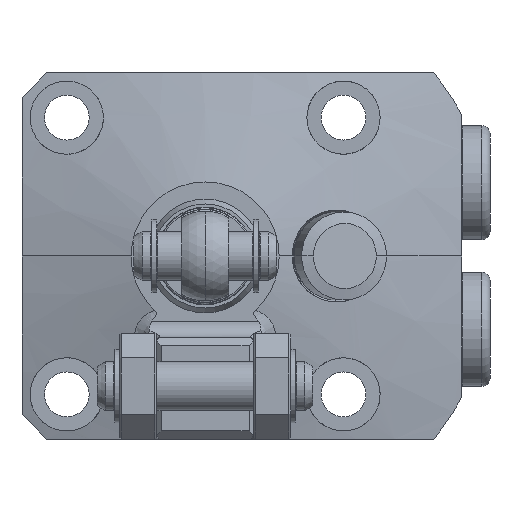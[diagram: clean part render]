
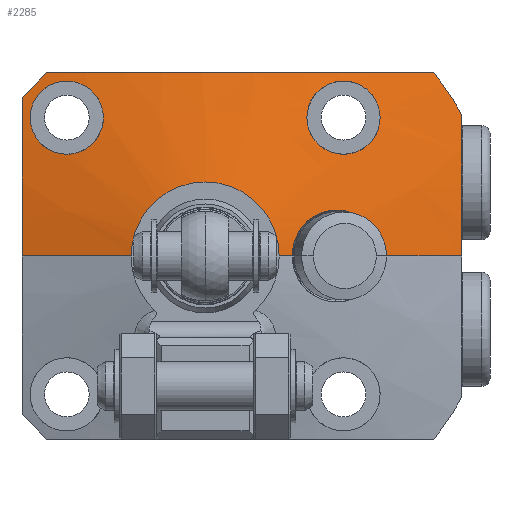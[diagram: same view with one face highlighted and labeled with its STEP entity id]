
A CAD part, left-side view. The second image highlights one B-rep face of the part: STEP entity #2285.
In plain terms, the highlighted conical face has half-angle 75 degrees and reference radius 36.259 mm.
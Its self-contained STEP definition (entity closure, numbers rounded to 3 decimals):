
#1564=B_SPLINE_CURVE_WITH_KNOTS('',3,(#12269,#12270,#12271,#12272,#12273,
#12274),.UNSPECIFIED.,.F.,.F.,(4,2,4),(0.,0.5,1.),.UNSPECIFIED.);
#1567=B_SPLINE_CURVE_WITH_KNOTS('',3,(#12395,#12396,#12397,#12398,#12399,
#12400,#12401,#12402,#12403,#12404),.UNSPECIFIED.,.F.,.F.,(4,2,2,2,4),(0.,
0.25,0.5,0.75,1.),.UNSPECIFIED.);
#1568=B_SPLINE_CURVE_WITH_KNOTS('',3,(#12413,#12414,#12415,#12416,#12417,
#12418,#12419,#12420,#12421,#12422),.UNSPECIFIED.,.F.,.F.,(4,2,2,2,4),(0.,
0.25,0.5,0.75,1.),.UNSPECIFIED.);
#1569=B_SPLINE_CURVE_WITH_KNOTS('',3,(#12546,#12547,#12548,#12549,#12550,
#12551,#12552,#12553,#12554,#12555),.UNSPECIFIED.,.F.,.F.,(4,2,2,2,4),(0.,
0.25,0.5,0.75,1.),.UNSPECIFIED.);
#1570=B_SPLINE_CURVE_WITH_KNOTS('',3,(#12556,#12557,#12558,#12559,#12560,
#12561,#12562,#12563,#12564,#12565),.UNSPECIFIED.,.F.,.F.,(4,2,2,2,4),(0.,
0.25,0.5,0.75,1.),.UNSPECIFIED.);
#1571=B_SPLINE_CURVE_WITH_KNOTS('',3,(#12571,#12572,#12573,#12574,#12575,
#12576),.UNSPECIFIED.,.F.,.F.,(4,2,4),(0.,0.5,1.),.UNSPECIFIED.);
#1572=B_SPLINE_CURVE_WITH_KNOTS('',3,(#12579,#12580,#12581,#12582),
 .UNSPECIFIED.,.F.,.F.,(4,4),(0.,1.),.UNSPECIFIED.);
#1573=B_SPLINE_CURVE_WITH_KNOTS('',3,(#12586,#12587,#12588,#12589,#12590,
#12591,#12592,#12593),.UNSPECIFIED.,.F.,.F.,(4,2,2,4),(0.,0.5,0.75,1.),
 .UNSPECIFIED.);
#1574=B_SPLINE_CURVE_WITH_KNOTS('',3,(#12595,#12596,#12597,#12598),
 .UNSPECIFIED.,.F.,.F.,(4,4),(0.,1.),.UNSPECIFIED.);
#1575=B_SPLINE_CURVE_WITH_KNOTS('',3,(#12600,#12601,#12602,#12603),
 .UNSPECIFIED.,.F.,.F.,(4,4),(0.,1.),.UNSPECIFIED.);
#1669=FACE_BOUND('',#3254,.T.);
#1670=FACE_BOUND('',#3255,.T.);
#1671=FACE_BOUND('',#3256,.T.);
#1775=CONICAL_SURFACE('',#8554,36.259,75.);
#2285=ADVANCED_FACE('',(#1669,#1670,#1671),#1775,.T.);
#3254=EDGE_LOOP('',(#5181,#5182));
#3255=EDGE_LOOP('',(#5183,#5184));
#3256=EDGE_LOOP('',(#5185,#5186,#5187,#5188,#5189,#5190,#5191,#5192,#5193,
#5194,#5195));
#3724=LINE('',#12569,#4063);
#3725=LINE('',#12577,#4064);
#3726=LINE('',#12605,#4065);
#4063=VECTOR('',#10321,1.);
#4064=VECTOR('',#10322,1.);
#4065=VECTOR('',#10325,1.);
#5181=ORIENTED_EDGE('',*,*,#7139,.T.);
#5182=ORIENTED_EDGE('',*,*,#7076,.T.);
#5183=ORIENTED_EDGE('',*,*,#7140,.T.);
#5184=ORIENTED_EDGE('',*,*,#7080,.T.);
#5185=ORIENTED_EDGE('',*,*,#7141,.T.);
#5186=ORIENTED_EDGE('',*,*,#7142,.T.);
#5187=ORIENTED_EDGE('',*,*,#7143,.F.);
#5188=ORIENTED_EDGE('',*,*,#7028,.F.);
#5189=ORIENTED_EDGE('',*,*,#7144,.T.);
#5190=ORIENTED_EDGE('',*,*,#7145,.T.);
#5191=ORIENTED_EDGE('',*,*,#7146,.T.);
#5192=ORIENTED_EDGE('',*,*,#7147,.T.);
#5193=ORIENTED_EDGE('',*,*,#7148,.T.);
#5194=ORIENTED_EDGE('',*,*,#7149,.F.);
#5195=ORIENTED_EDGE('',*,*,#7150,.F.);
#6290=VERTEX_POINT('',#12268);
#6291=VERTEX_POINT('',#12275);
#6332=VERTEX_POINT('',#12405);
#6333=VERTEX_POINT('',#12406);
#6336=VERTEX_POINT('',#12423);
#6337=VERTEX_POINT('',#12424);
#6386=VERTEX_POINT('',#12567);
#6387=VERTEX_POINT('',#12568);
#6388=VERTEX_POINT('',#12570);
#6389=VERTEX_POINT('',#12578);
#6390=VERTEX_POINT('',#12583);
#6391=VERTEX_POINT('',#12585);
#6392=VERTEX_POINT('',#12594);
#6393=VERTEX_POINT('',#12599);
#6394=VERTEX_POINT('',#12604);
#7028=EDGE_CURVE('',#6290,#6291,#1564,.T.);
#7076=EDGE_CURVE('',#6332,#6333,#1567,.T.);
#7080=EDGE_CURVE('',#6336,#6337,#1568,.T.);
#7139=EDGE_CURVE('',#6333,#6332,#1569,.T.);
#7140=EDGE_CURVE('',#6337,#6336,#1570,.T.);
#7141=EDGE_CURVE('',#6386,#6387,#7794,.T.);
#7142=EDGE_CURVE('',#6387,#6388,#3724,.T.);
#7143=EDGE_CURVE('',#6291,#6388,#1571,.T.);
#7144=EDGE_CURVE('',#6290,#6389,#3725,.T.);
#7145=EDGE_CURVE('',#6389,#6390,#1572,.T.);
#7146=EDGE_CURVE('',#6390,#6391,#7795,.T.);
#7147=EDGE_CURVE('',#6391,#6392,#1573,.T.);
#7148=EDGE_CURVE('',#6392,#6393,#1574,.T.);
#7149=EDGE_CURVE('',#6394,#6393,#1575,.T.);
#7150=EDGE_CURVE('',#6386,#6394,#3726,.T.);
#7794=CIRCLE('',#8552,9.098);
#7795=CIRCLE('',#8553,36.);
#8552=AXIS2_PLACEMENT_3D('',#12566,#10319,#10320);
#8553=AXIS2_PLACEMENT_3D('',#12584,#10323,#10324);
#8554=AXIS2_PLACEMENT_3D('',#12606,#10326,#10327);
#10319=DIRECTION('',(1.,0.,0.));
#10320=DIRECTION('',(0.,0.,1.));
#10321=DIRECTION('',(0.259,-0.966,0.));
#10322=DIRECTION('',(0.259,-0.966,0.));
#10323=DIRECTION('',(-1.,0.,0.));
#10324=DIRECTION('',(0.,1.,0.));
#10325=DIRECTION('',(0.259,0.966,0.));
#10326=DIRECTION('',(1.,0.,0.));
#10327=DIRECTION('',(0.,-1.,0.));
#12268=CARTESIAN_POINT('',(-21.63,-21.676,0.));
#12269=CARTESIAN_POINT('',(-21.63,-21.676,0.));
#12270=CARTESIAN_POINT('',(-21.63,-21.676,1.493));
#12271=CARTESIAN_POINT('',(-21.746,-21.073,2.952));
#12272=CARTESIAN_POINT('',(-22.173,-19.031,5.036));
#12273=CARTESIAN_POINT('',(-22.486,-17.601,5.65));
#12274=CARTESIAN_POINT('',(-22.852,-16.154,5.65));
#12275=CARTESIAN_POINT('',(-22.852,-16.154,5.65));
#12395=CARTESIAN_POINT('',(-20.094,17.,21.5));
#12396=CARTESIAN_POINT('',(-20.292,15.805,21.5));
#12397=CARTESIAN_POINT('',(-20.574,14.656,21.012));
#12398=CARTESIAN_POINT('',(-21.183,13.011,19.382));
#12399=CARTESIAN_POINT('',(-21.513,12.519,18.237));
#12400=CARTESIAN_POINT('',(-22.023,12.482,15.906));
#12401=CARTESIAN_POINT('',(-22.198,12.947,14.706));
#12402=CARTESIAN_POINT('',(-22.205,14.631,12.99));
#12403=CARTESIAN_POINT('',(-22.039,15.816,12.5));
#12404=CARTESIAN_POINT('',(-21.784,17.,12.5));
#12405=CARTESIAN_POINT('',(-20.094,17.,21.5));
#12406=CARTESIAN_POINT('',(-21.784,17.,12.5));
#12413=CARTESIAN_POINT('',(-20.094,-21.5,17.));
#12414=CARTESIAN_POINT('',(-20.292,-21.5,15.805));
#12415=CARTESIAN_POINT('',(-20.574,-21.012,14.656));
#12416=CARTESIAN_POINT('',(-21.183,-19.382,13.011));
#12417=CARTESIAN_POINT('',(-21.513,-18.237,12.519));
#12418=CARTESIAN_POINT('',(-22.023,-15.906,12.482));
#12419=CARTESIAN_POINT('',(-22.198,-14.706,12.947));
#12420=CARTESIAN_POINT('',(-22.205,-12.99,14.631));
#12421=CARTESIAN_POINT('',(-22.039,-12.5,15.816));
#12422=CARTESIAN_POINT('',(-21.784,-12.5,17.));
#12423=CARTESIAN_POINT('',(-20.094,-21.5,17.));
#12424=CARTESIAN_POINT('',(-21.784,-12.5,17.));
#12546=CARTESIAN_POINT('',(-21.784,17.,12.5));
#12547=CARTESIAN_POINT('',(-21.529,18.182,12.5));
#12548=CARTESIAN_POINT('',(-21.203,19.318,12.973));
#12549=CARTESIAN_POINT('',(-20.593,20.972,14.589));
#12550=CARTESIAN_POINT('',(-20.307,21.477,15.74));
#12551=CARTESIAN_POINT('',(-19.909,21.522,18.088));
#12552=CARTESIAN_POINT('',(-19.793,21.054,19.292));
#12553=CARTESIAN_POINT('',(-19.787,19.377,21.005));
#12554=CARTESIAN_POINT('',(-19.895,18.193,21.5));
#12555=CARTESIAN_POINT('',(-20.094,17.,21.5));
#12556=CARTESIAN_POINT('',(-21.784,-12.5,17.));
#12557=CARTESIAN_POINT('',(-21.529,-12.5,18.182));
#12558=CARTESIAN_POINT('',(-21.203,-12.973,19.318));
#12559=CARTESIAN_POINT('',(-20.593,-14.589,20.972));
#12560=CARTESIAN_POINT('',(-20.307,-15.74,21.477));
#12561=CARTESIAN_POINT('',(-19.909,-18.088,21.522));
#12562=CARTESIAN_POINT('',(-19.793,-19.292,21.054));
#12563=CARTESIAN_POINT('',(-19.787,-21.005,19.377));
#12564=CARTESIAN_POINT('',(-19.895,-21.5,18.193));
#12565=CARTESIAN_POINT('',(-20.094,-21.5,17.));
#12566=CARTESIAN_POINT('',(-25.,0.,0.));
#12567=CARTESIAN_POINT('',(-25.,9.098,0.));
#12568=CARTESIAN_POINT('',(-25.,-9.098,0.));
#12569=CARTESIAN_POINT('',(-17.722,-36.259,0.));
#12570=CARTESIAN_POINT('',(-24.555,-10.761,0.));
#12571=CARTESIAN_POINT('',(-22.852,-16.154,5.65));
#12572=CARTESIAN_POINT('',(-23.218,-14.706,5.65));
#12573=CARTESIAN_POINT('',(-23.63,-13.305,5.037));
#12574=CARTESIAN_POINT('',(-24.306,-11.33,2.955));
#12575=CARTESIAN_POINT('',(-24.555,-10.761,1.493));
#12576=CARTESIAN_POINT('',(-24.555,-10.761,0.));
#12577=CARTESIAN_POINT('',(-17.722,-36.259,0.));
#12578=CARTESIAN_POINT('',(-18.997,-31.5,0.));
#12579=CARTESIAN_POINT('',(-18.997,-31.5,0.));
#12580=CARTESIAN_POINT('',(-18.997,-31.5,5.837));
#12581=CARTESIAN_POINT('',(-18.542,-31.5,11.643));
#12582=CARTESIAN_POINT('',(-17.792,-31.5,17.428));
#12583=CARTESIAN_POINT('',(-17.792,-31.5,17.428));
#12584=CARTESIAN_POINT('',(-17.792,0.,0.));
#12585=CARTESIAN_POINT('',(-17.792,-28.102,22.5));
#12586=CARTESIAN_POINT('',(-17.792,-28.102,22.5));
#12587=CARTESIAN_POINT('',(-19.43,-20.269,22.5));
#12588=CARTESIAN_POINT('',(-20.875,-12.419,22.5));
#12589=CARTESIAN_POINT('',(-21.498,-0.509,22.5));
#12590=CARTESIAN_POINT('',(-21.423,3.485,22.5));
#12591=CARTESIAN_POINT('',(-20.742,11.52,22.5));
#12592=CARTESIAN_POINT('',(-20.158,15.522,22.5));
#12593=CARTESIAN_POINT('',(-19.46,19.5,22.5));
#12594=CARTESIAN_POINT('',(-19.46,19.5,22.5));
#12595=CARTESIAN_POINT('',(-19.46,19.5,22.5));
#12596=CARTESIAN_POINT('',(-19.487,20.5,21.5));
#12597=CARTESIAN_POINT('',(-19.487,21.5,20.5));
#12598=CARTESIAN_POINT('',(-19.46,22.5,19.5));
#12599=CARTESIAN_POINT('',(-19.46,22.5,19.5));
#12600=CARTESIAN_POINT('',(-21.409,22.5,0.));
#12601=CARTESIAN_POINT('',(-21.409,22.5,6.565));
#12602=CARTESIAN_POINT('',(-20.592,22.5,13.048));
#12603=CARTESIAN_POINT('',(-19.46,22.5,19.5));
#12604=CARTESIAN_POINT('',(-21.409,22.5,0.));
#12605=CARTESIAN_POINT('',(-17.722,36.259,0.));
#12606=CARTESIAN_POINT('',(-17.722,0.,0.));
